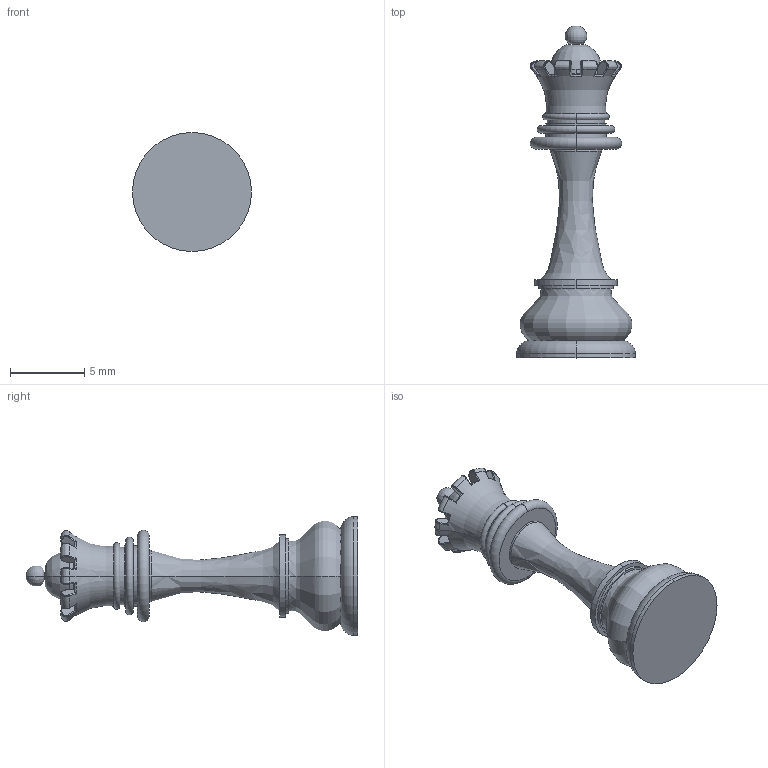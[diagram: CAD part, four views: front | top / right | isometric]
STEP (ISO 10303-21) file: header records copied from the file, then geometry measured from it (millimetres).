
FILE_DESCRIPTION((''),'2;1');
FILE_NAME('PRT0002','2016-01-25T',('sylva'),(''),'PRO/ENGINEER BY PARAMETRIC TECHNOLOGY CORPORATION, 2014200','PRO/ENGINEER BY PARAMETRIC TECHNOLOGY CORPORATION, 2014200','');
FILE_SCHEMA(('CONFIG_CONTROL_DESIGN'));
Length unit declared in the file: millimetre
Products named in the file (1): PRT0002
Bounding box: 8.03 x 22.41 x 8.03 mm (x, y, z)
Volume: 355.2 mm3; surface area: 482.6 mm2
Topology: 1 solids, 1 shells, 193 faces, 517 edges, 334 vertices
Faces by surface type: bspline 60, cylinder 50, plane 41, revolution 21, torus 21
Entity records: 12212 total; most frequent: CARTESIAN_POINT 7797, ORIENTED_EDGE 1030, DIRECTION 741, EDGE_CURVE 515, VERTEX_POINT 334, AXIS2_PLACEMENT_3D 320, B_SPLINE_CURVE_WITH_KNOTS 248, CIRCLE 208
